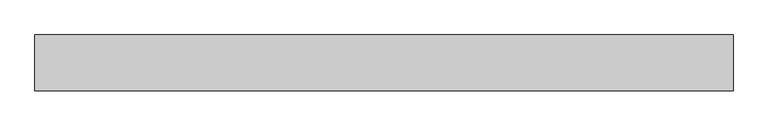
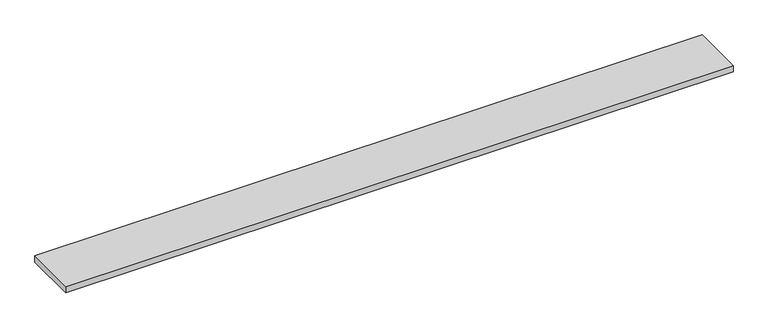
"""IFC4 building model written with IfcOpenShell, lengths in millimetres: proxy geometry, AK_アルミ足場板 AL-3_軽 : AK_アルミ足場板 AL-3_軽."""

import ifcopenshell
import ifcopenshell.guid

model = None  # the IFC model being written
_history = None  # IfcOwnerHistory: only IFC2X3 demands one
_inside = {}  # id of a spatial element -> (the spatial element, [elements in it])
_under = {}  # id of a project, library or spatial element -> (it, [spatial elements below it])
_declared = {}  # id of a project -> (the project, [libraries it declares])
_typed = {}  # id of a type object -> (the type object, [elements of that type])
_made_of = {}  # id of a material, layer set ... -> (it, [elements and type objects made of it])


def new_model(schema):
    """Start an empty IFC model of exactly this schema.

    Asked for "IFC4X3", IfcOpenShell would pick the latest addendum, in which some entities
    have other attributes; the version numbers below select the first issue.
    IFC2X3 requires an IfcOwnerHistory on every rooted entity: one is made here for all.
    """
    global model, _history
    if schema == "IFC4X3":
        model = ifcopenshell.file(schema_version=(4, 3, 0, 0))
    else:
        model = ifcopenshell.file(schema=schema)
    _inside.clear()
    _under.clear()
    _declared.clear()
    _typed.clear()
    _made_of.clear()
    _history = None
    if model.schema == "IFC2X3":
        org = make("IfcOrganization", Name="unknown")
        user = make(
            "IfcPersonAndOrganization",
            ThePerson=make("IfcPerson", FamilyName="unknown"),
            TheOrganization=org,
        )
        app = make(
            "IfcApplication",
            ApplicationDeveloper=org,
            Version="unknown",
            ApplicationFullName="unknown",
            ApplicationIdentifier="unknown",
        )
        _history = make(
            "IfcOwnerHistory",
            OwningUser=user,
            OwningApplication=app,
            ChangeAction="ADDED",
            CreationDate=0,
        )
    return model


def make(cls, **values):
    """One entity of the class cls with the attributes given. An attribute that is None is left unset."""
    return model.create_entity(
        cls, **{name: value for name, value in values.items() if value is not None}
    )


def rooted(cls, **values):
    """An entity with a GlobalId (a new one), such as an element, a storey or a relation."""
    return make(cls, GlobalId=ifcopenshell.guid.new(), OwnerHistory=_history, **values)


def si_unit(unit_type, name, prefix=None):
    """IfcSIUnit, for example si_unit("LENGTHUNIT", "METRE", prefix="MILLI")."""
    return make("IfcSIUnit", UnitType=unit_type, Prefix=prefix, Name=name)


def assignment(units):
    """IfcUnitAssignment: the units of a project."""
    return None if units is None else make("IfcUnitAssignment", Units=units)


def point(xyz):
    """IfcCartesianPoint."""
    return None if xyz is None else make("IfcCartesianPoint", Coordinates=xyz)


def direction(xyz):
    """IfcDirection."""
    return None if xyz is None else make("IfcDirection", DirectionRatios=xyz)


def frame(location, z_axis=None, x_axis=None):
    """IfcAxis2Placement3D, a coordinate frame: its origin and axes. An axis left out is left unset."""
    return make(
        "IfcAxis2Placement3D",
        Location=point(location),
        Axis=direction(z_axis),
        RefDirection=direction(x_axis),
    )


def origin():
    """The frame at (0, 0, 0) with its axes left unset."""
    return frame((0.0, 0.0, 0.0))


def origin_with_axes():
    """The frame at (0, 0, 0) with the z axis (0, 0, 1) and the x axis (1, 0, 0) written out."""
    return frame((0.0, 0.0, 0.0), z_axis=(0.0, 0.0, 1.0), x_axis=(1.0, 0.0, 0.0))


def place(relative_to, where):
    """IfcLocalPlacement: puts the frame where relative to a parent placement (None: the world)."""
    return make(
        "IfcLocalPlacement", PlacementRelTo=relative_to, RelativePlacement=where
    )


def context(
    kind, dimensions, precision=None, world=None, true_north=None, identifier=None
):
    """IfcGeometricRepresentationContext, for example the 3D "Model" context."""
    return make(
        "IfcGeometricRepresentationContext",
        ContextIdentifier=identifier,
        ContextType=kind,
        CoordinateSpaceDimension=dimensions,
        Precision=precision,
        WorldCoordinateSystem=world,
        TrueNorth=true_north,
    )


def project(units=None, contexts=None):
    """IfcProject with its units and contexts."""
    return rooted(
        "IfcProject",
        Name="project",
        RepresentationContexts=contexts,
        UnitsInContext=assignment(units),
    )


def spatial(cls, under=None, at=None, **own):
    """A site, building, storey or space (cls), placed at a placement, below another one or the project."""
    s = rooted(cls, ObjectPlacement=at, **own)
    if under is not None:
        _under.setdefault(under.id(), (under, []))[1].append(s)
    return s


def polyline(points):
    """IfcPolyline through the points."""
    return make("IfcPolyline", Points=[point(p) for p in points])


def outline(outer, holes=None, kind="AREA"):
    """IfcArbitraryClosedProfileDef: a profile drawn as a closed curve; with holes, ...WithVoids."""
    if holes is None:
        return make("IfcArbitraryClosedProfileDef", ProfileType=kind, OuterCurve=outer)
    return make(
        "IfcArbitraryProfileDefWithVoids",
        ProfileType=kind,
        OuterCurve=outer,
        InnerCurves=holes,
    )


def extrude(swept, where, along, depth):
    """IfcExtrudedAreaSolid: the profile swept, set in the frame where, extruded along a direction by depth."""
    return make(
        "IfcExtrudedAreaSolid",
        SweptArea=swept,
        Position=where,
        ExtrudedDirection=direction(along),
        Depth=depth,
    )


def shape(context_of_items, identifier, shape_type, items):
    """IfcShapeRepresentation: the items that make up one representation, for example the "Body"."""
    return make(
        "IfcShapeRepresentation",
        ContextOfItems=context_of_items,
        RepresentationIdentifier=identifier,
        RepresentationType=shape_type,
        Items=items,
    )


def source(mapping_origin, context_of_items, identifier, shape_type, items):
    """IfcRepresentationMap: a shape defined once, which mapped items show again and again."""
    return make(
        "IfcRepresentationMap",
        MappingOrigin=mapping_origin,
        MappedRepresentation=shape(context_of_items, identifier, shape_type, items),
    )


def transform(
    local_origin,
    x_axis=None,
    y_axis=None,
    z_axis=None,
    scale=None,
    scale2=None,
    scale3=None,
    uniform=True,
):
    """IfcCartesianTransformationOperator3D, or its non-uniform kind. x_axis, y_axis, z_axis: its Axis1, 2, 3."""
    if uniform:
        return make(
            "IfcCartesianTransformationOperator3D",
            Axis1=direction(x_axis),
            Axis2=direction(y_axis),
            LocalOrigin=point(local_origin),
            Scale=scale,
            Axis3=direction(z_axis),
        )
    return make(
        "IfcCartesianTransformationOperator3DnonUniform",
        Axis1=direction(x_axis),
        Axis2=direction(y_axis),
        LocalOrigin=point(local_origin),
        Scale=scale,
        Axis3=direction(z_axis),
        Scale2=scale2,
        Scale3=scale3,
    )


def mapped(mapping_source, mapping_target):
    """IfcMappedItem: shows the shape of a source again, moved by a transform."""
    return make(
        "IfcMappedItem", MappingSource=mapping_source, MappingTarget=mapping_target
    )


def made_of(thing, what):
    """Note that an element or type object is made of a material, layer set ...; save() writes the relation."""
    if what is not None:
        _made_of.setdefault(what.id(), (what, []))[1].append(thing)
    return thing


def element(
    cls,
    number,
    at=None,
    inside=None,
    cuts=None,
    type_object=None,
    material=None,
    context=None,
    identifier="Body",
    shape_type=None,
    held_by="IfcProductDefinitionShape",
    body=None,
    shapes=None,
    **own,
):
    """One element of the class cls, such as IfcWall. Its Tag is "e" and its number.

    at: its placement. inside: the storey or other place that contains it. cuts: it is an
    opening in that element (IfcRelVoidsElement). A single representation is given by context,
    identifier, shape_type and body (its items); several are given by shapes. held_by: the class
    of the entity that holds the representations. save() writes the other relations.
    """
    e = rooted(cls, Tag="e%d" % number, ObjectPlacement=at, **own)
    if body is not None:
        shapes = [shape(context, identifier, shape_type, body)]
    if shapes is not None:
        e.Representation = make(held_by, Representations=shapes)
    if inside is not None:
        _inside.setdefault(inside.id(), (inside, []))[1].append(e)
    if cuts is not None:
        rooted(
            "IfcRelVoidsElement", RelatingBuildingElement=cuts, RelatedOpeningElement=e
        )
    if type_object is not None:
        _typed.setdefault(type_object.id(), (type_object, []))[1].append(e)
    return made_of(e, material)


def aggregate(whole, parts):
    """IfcRelAggregates: a whole, such as a stair, and the parts it consists of."""
    return rooted("IfcRelAggregates", RelatingObject=whole, RelatedObjects=parts)


def save(model, path):
    """Write the relations noted so far, then the file.

    IfcRelAggregates (storeys below a building ...), IfcRelContainedInSpatialStructure (elements
    in a storey), IfcRelDefinesByType, IfcRelAssociatesMaterial and IfcRelDeclares: one each for
    every whole, place, type object, material and project.
    """
    for whole, parts in _under.values():
        aggregate(whole, parts)
    for where, things in _inside.values():
        rooted(
            "IfcRelContainedInSpatialStructure",
            RelatedElements=things,
            RelatingStructure=where,
        )
    for kind, things in _typed.values():
        rooted("IfcRelDefinesByType", RelatedObjects=things, RelatingType=kind)
    for what, things in _made_of.values():
        rooted("IfcRelAssociatesMaterial", RelatedObjects=things, RelatingMaterial=what)
    for by, libraries in _declared.values():
        rooted("IfcRelDeclares", RelatingContext=by, RelatedDefinitions=libraries)
    model.write(path)


def generic_models_d422c3df(model_context):
    return source(origin(), model_context, "Body", "SweptSolid", [
        extrude(outline(polyline([(2999.9994951, 240.0), (2999.9994951, 0.0157988), (0.0, 0.0157988), (0.0, 240.0), (2999.9994951, 240.0)])), origin_with_axes(), (0.0, 0.0, 1.0), 29.0),
    ])


if __name__ == "__main__":
    model = new_model("IFC4")
    model_context = context("Model", 3, world=origin())
    ifc_project = project(units=[si_unit("LENGTHUNIT", "METRE", prefix="MILLI")], contexts=[model_context])
    site = spatial("IfcSite", under=ifc_project)
    building = spatial("IfcBuilding", under=site)
    placement = place(None, origin())
    generic_models_shape = generic_models_d422c3df(model_context)
    element("IfcBuildingElementProxy", 1, Name="AK_アルミ足場板 AL-3_軽 : AK_アルミ足場板 AL-3_軽", ObjectType="AK_アルミ足場板 AL-3_軽 : AK_アルミ足場板 AL-3_軽", at=placement, inside=building, context=model_context, shape_type="MappedRepresentation", body=[
        mapped(generic_models_shape, transform((0.0, 0.0, 0.0), x_axis=(1.0, 0.0, 0.0), y_axis=(0.0, 1.0, 0.0), z_axis=(0.0, 0.0, 1.0))),
    ])
    save(model, "model.ifc")
